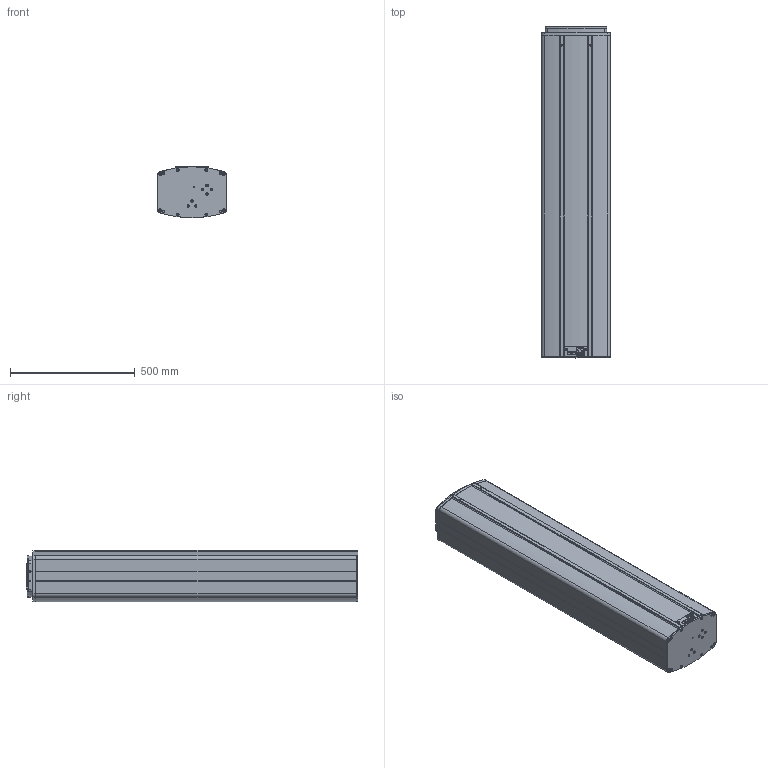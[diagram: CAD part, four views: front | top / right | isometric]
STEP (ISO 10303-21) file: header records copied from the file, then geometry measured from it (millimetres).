
FILE_DESCRIPTION (( 'STEP AP203' ), '1' );
FILE_NAME ('3D_TL50.STEP', '2022-01-14T02:32:56', ( '' ), ( '' ), 'SwSTEP 2.0', 'SolidWorks 2015', '' );
FILE_SCHEMA (( 'CONFIG_CONTROL_DESIGN' ));
Length unit declared in the file: millimetre
Products named in the file (1): 3D_TL50
Bounding box: 276 x 1329 x 206.35 mm (x, y, z)
Volume: 68876860 mm3; surface area: 1933397.5 mm2
Topology: 23 solids, 23 shells, 2048 faces, 5352 edges, 3351 vertices
Faces by surface type: plane 1194, cylinder 448, cone 294, bspline 83, torus 27, sphere 2
Entity records: 66672 total; most frequent: CARTESIAN_POINT 16930, ORIENTED_EDGE 10412, DIRECTION 10070, EDGE_CURVE 5206, VECTOR 3508, LINE 3508, VERTEX_POINT 3351, AXIS2_PLACEMENT_3D 3281
